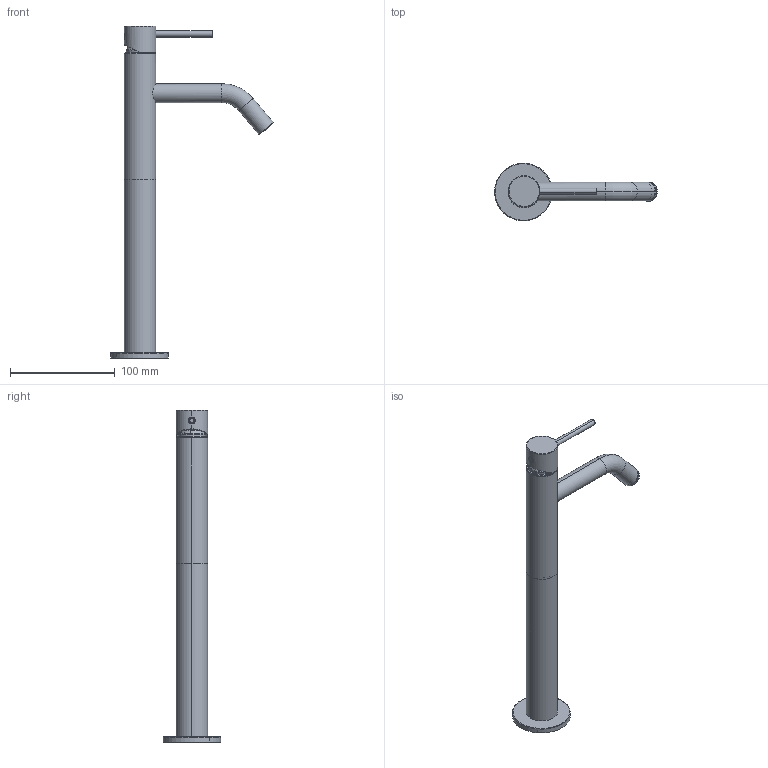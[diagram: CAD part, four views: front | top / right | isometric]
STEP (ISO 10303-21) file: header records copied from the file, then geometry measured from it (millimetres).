
FILE_DESCRIPTION (( 'STEP AP203' ), '1' );
FILE_NAME ('MME3.STEP', '2025-02-07T07:32:46', ( '' ), ( '' ), 'SwSTEP 2.0', 'SolidWorks 2024', '' );
FILE_SCHEMA (( 'CONFIG_CONTROL_DESIGN' ));
Length unit declared in the file: millimetre
Products named in the file (14): C11.14.0009; C24.0377.00.0; AS063_01; C47.00.0023.01; C24.0120.00.1; C24.0379.00.0; C24.0378.00.2; C24.0699.00.0; C24.0119.00.2; C13.00.0043; MME3; C10.00.0013; C24.0375.00.2; C24.0372.00.1
Assembly tree (13 placements, depth 3):
  MME3
    AS063_01
      C24.0375.00.2
      C24.0378.00.2
    C24.0119.00.2
    C24.0120.00.1
    C10.00.0013
    C47.00.0023.01
    C11.14.0009
    C13.00.0043
    C24.0377.00.0
    C24.0379.00.0
    C24.0372.00.1
    C24.0699.00.0
Bounding box: 155.17 x 54.92 x 316.51 mm (x, y, z)
Volume: 95344.1 mm3; surface area: 93288.2 mm2
Topology: 11 solids, 21 shells, 885 faces, 2559 edges, 1686 vertices
Faces by surface type: cylinder 358, plane 297, cone 110, bspline 86, torus 34
Entity records: 35509 total; most frequent: CARTESIAN_POINT 12083, ORIENTED_EDGE 4606, DIRECTION 4354, EDGE_CURVE 2533, AXIS2_PLACEMENT_3D 1687, VERTEX_POINT 1686, VECTOR 980, LINE 980
